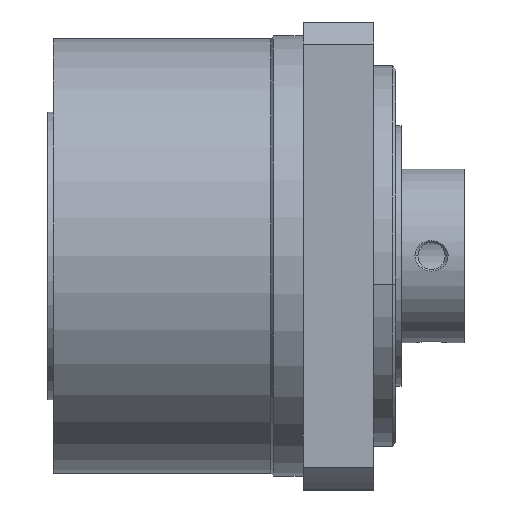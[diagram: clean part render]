
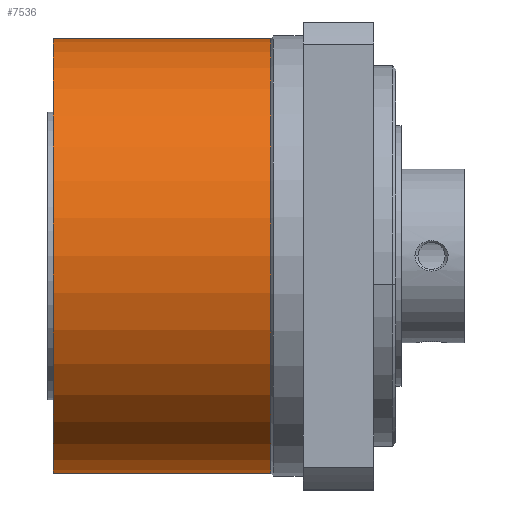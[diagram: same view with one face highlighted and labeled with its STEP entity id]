
A CAD part, top view. The second image highlights one B-rep face of the part: STEP entity #7536.
In plain terms, the highlighted cylindrical face has radius 20 mm (diameter 40 mm), a partial arc.
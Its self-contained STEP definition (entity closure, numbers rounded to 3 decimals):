
#84 = ORIENTED_EDGE ( 'NONE', *, *, #2671, .T. ) ;
#852 = DIRECTION ( 'NONE',  ( 1., 0., 0. ) ) ;
#944 = CIRCLE ( 'NONE', #6505, 20. ) ;
#1084 = DIRECTION ( 'NONE',  ( 1., 0., 0. ) ) ;
#1354 = CARTESIAN_POINT ( 'NONE',  ( 0., 20., 0. ) ) ;
#1677 = CARTESIAN_POINT ( 'NONE',  ( -29.5, 0., 0. ) ) ;
#1679 = CARTESIAN_POINT ( 'NONE',  ( -9.5, 20., 0. ) ) ;
#1986 = EDGE_CURVE ( 'NONE', #9916, #11360, #944, .T. ) ;
#2103 = CARTESIAN_POINT ( 'NONE',  ( -29.5, -20., 0. ) ) ;
#2359 = VECTOR ( 'NONE', #3060, 1000. ) ;
#2671 = EDGE_CURVE ( 'NONE', #11360, #3680, #2695, .T. ) ;
#2695 = LINE ( 'NONE', #3051, #2359 ) ;
#3051 = CARTESIAN_POINT ( 'NONE',  ( 0., -20., 0. ) ) ;
#3060 = DIRECTION ( 'NONE',  ( 1., 0., 0. ) ) ;
#3412 = AXIS2_PLACEMENT_3D ( 'NONE', #7779, #7801, #7790 ) ;
#3680 = VERTEX_POINT ( 'NONE', #10717 ) ;
#4061 = LINE ( 'NONE', #1354, #6876 ) ;
#5244 = DIRECTION ( 'NONE',  ( 0., 1., 0. ) ) ;
#6051 = ORIENTED_EDGE ( 'NONE', *, *, #13479, .F. ) ;
#6505 = AXIS2_PLACEMENT_3D ( 'NONE', #1677, #852, #5244 ) ;
#6734 = CIRCLE ( 'NONE', #11731, 20. ) ;
#6876 = VECTOR ( 'NONE', #1084, 1000. ) ;
#6905 = CYLINDRICAL_SURFACE ( 'NONE', #3412, 20. ) ;
#6923 = EDGE_LOOP ( 'NONE', ( #10255, #84, #9007, #6051 ) ) ;
#7230 = EDGE_CURVE ( 'NONE', #8518, #3680, #6734, .T. ) ;
#7536 = ADVANCED_FACE ( 'NONE', ( #12488 ), #6905, .T. ) ;
#7779 = CARTESIAN_POINT ( 'NONE',  ( 0., 0., 0. ) ) ;
#7790 = DIRECTION ( 'NONE',  ( 0., 1., 0. ) ) ;
#7801 = DIRECTION ( 'NONE',  ( 1., 0., 0. ) ) ;
#8518 = VERTEX_POINT ( 'NONE', #1679 ) ;
#9007 = ORIENTED_EDGE ( 'NONE', *, *, #7230, .F. ) ;
#9521 = CARTESIAN_POINT ( 'NONE',  ( -29.5, 20., 0. ) ) ;
#9916 = VERTEX_POINT ( 'NONE', #9521 ) ;
#9946 = DIRECTION ( 'NONE',  ( 0., 1., 0. ) ) ;
#9962 = DIRECTION ( 'NONE',  ( 1., 0., 0. ) ) ;
#9975 = CARTESIAN_POINT ( 'NONE',  ( -9.5, 0., 0. ) ) ;
#10255 = ORIENTED_EDGE ( 'NONE', *, *, #1986, .T. ) ;
#10717 = CARTESIAN_POINT ( 'NONE',  ( -9.5, -20., 0. ) ) ;
#11360 = VERTEX_POINT ( 'NONE', #2103 ) ;
#11731 = AXIS2_PLACEMENT_3D ( 'NONE', #9975, #9962, #9946 ) ;
#12488 = FACE_OUTER_BOUND ( 'NONE', #6923, .T. ) ;
#13479 = EDGE_CURVE ( 'NONE', #9916, #8518, #4061, .T. ) ;
